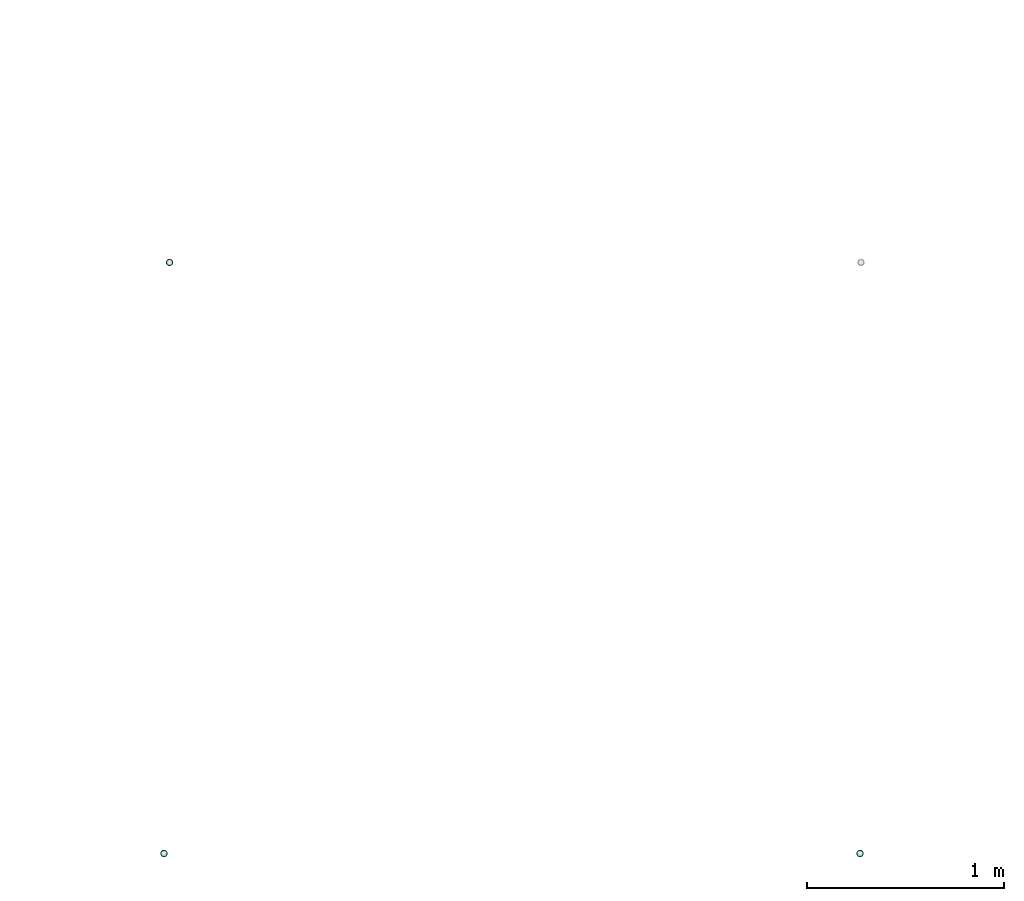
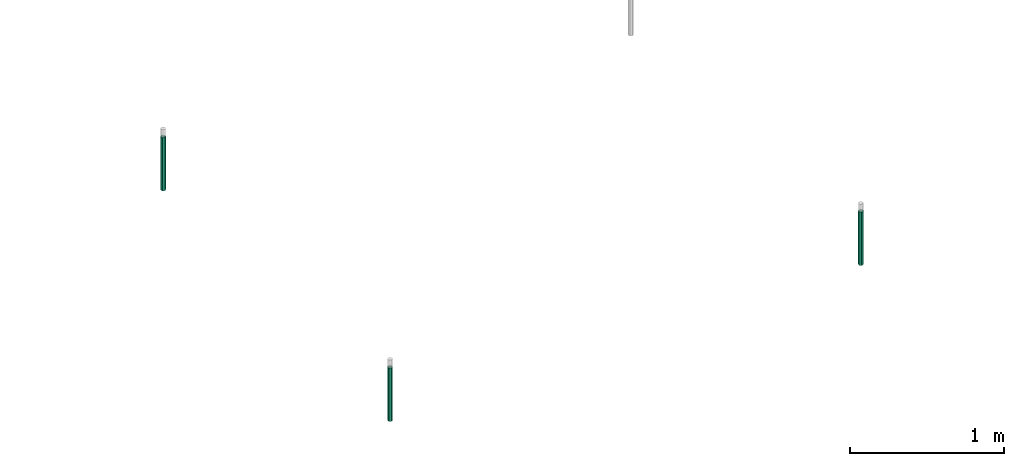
# One storey, part 9 of 14: 3 flow segments.
"""IFC2X3 building model written with IfcOpenShell, lengths in millimetres."""

from ifc_helpers import new_model, entity, si_unit, converted_unit, derived_unit, direction, frame, place, context, subcontext, project, spatial, faceted_brep, type_object, element, save


model = new_model("IFC2X3")

# Units and contexts
model_context = context("Model", 3, precision=0.01, world=frame((0.0, 4.29681676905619e-09, 0.0)), true_north=direction((4.01073788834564e-13, 1.0)))
plan_context = context("Plan", 3, precision=0.01, world=frame((0.0, 4.29681676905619e-09, 0.0)), true_north=direction((4.01073788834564e-13, 1.0)))
body_context = subcontext(model_context, "Body", "Model", "MODEL_VIEW")
ifc_project = project(units=[converted_unit("PLANEANGLEUNIT", "DEGREE", entity("IfcPositiveLengthMeasure", 0.0174532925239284), si_unit("PLANEANGLEUNIT", "RADIAN"), dimensions=[0, 0, 0, 0, 0, 0, 0]), si_unit("AREAUNIT", "SQUARE_METRE"), si_unit("LENGTHUNIT", "METRE", prefix="MILLI"), si_unit("MASSUNIT", "GRAM", prefix="KILO"), si_unit("POWERUNIT", "WATT"), si_unit("PRESSUREUNIT", "PASCAL", prefix="KILO"), si_unit("FORCEUNIT", "NEWTON", prefix="KILO"), si_unit("ELECTRICVOLTAGEUNIT", "VOLT"), si_unit("ELECTRICCURRENTUNIT", "AMPERE"), si_unit("THERMODYNAMICTEMPERATUREUNIT", "DEGREE_CELSIUS"), si_unit("TIMEUNIT", "SECOND"), si_unit("VOLUMEUNIT", "CUBIC_METRE"), derived_unit("LINEARVELOCITYUNIT", [(si_unit("LENGTHUNIT", "METRE"), 1), (si_unit("TIMEUNIT", "SECOND"), -1)]), derived_unit("VOLUMETRICFLOWRATEUNIT", [(si_unit("VOLUMEUNIT", "CUBIC_METRE"), 1), (si_unit("TIMEUNIT", "SECOND"), -1)]), derived_unit("THERMALTRANSMITTANCEUNIT", [(si_unit("POWERUNIT", "WATT"), 1), (si_unit("THERMODYNAMICTEMPERATUREUNIT", "KELVIN"), -1), (si_unit("AREAUNIT", "SQUARE_METRE"), -1)]), derived_unit("SOUNDPRESSUREUNIT", [(si_unit("PRESSUREUNIT", "PASCAL"), 1)])], contexts=[model_context, plan_context])

# Site, building, storey
site_placement = place(None, frame((0.0, -4.29681676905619e-09, 0.0), z_axis=(0.0, 0.0, 1.0), x_axis=(1.0, 0.0, 0.0)))
site = spatial("IfcSite", under=ifc_project, at=site_placement, CompositionType="ELEMENT")
building_placement = place(site_placement, frame((0.0, 4.29681676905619e-09, 0.0), z_axis=(0.0, 0.0, 1.0), x_axis=(1.0, 0.0, 0.0)))
building = spatial("IfcBuilding", under=site, at=building_placement, Name="mc-building", CompositionType="ELEMENT")
storey_placement = place(building_placement, frame((0.0, 0.0, 204000.0), z_axis=(0.0, 0.0, 1.0), x_axis=(1.0, 0.0, 0.0)))
storey = spatial("IfcBuildingStorey", under=building, at=storey_placement, Name="Nivå D", CompositionType="ELEMENT", Elevation=204000.0)

# Flow segments
pipe_segment_type = type_object("IfcPipeSegmentType", Name="Stålrør normaltykke", PredefinedType="RIGIDSEGMENT")
flow_segment_1_placement = place(storey_placement, frame((585184.33619, 573505.33925, 5536.29999999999), z_axis=(0.0, 1.0, 0.0), x_axis=(0.0, 0.0, 1.0)))
element("IfcFlowSegment", 1, at=flow_segment_1_placement, inside=storey, type_object=pipe_segment_type, Name="Stålrør normaltykke", context=body_context, shape_type="Brep", body=[
    faceted_brep([(363.700000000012, 14.6736355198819, -2.58735784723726), (363.700000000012, 14.9, 0.0), (787.3, 14.9, 0.0), (787.3, 14.6736355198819, -2.58735784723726), (363.700000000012, 14.00142004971, -5.09610013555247), (787.3, 14.00142004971, -5.09610013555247), (363.700000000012, 12.9037785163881, -7.45), (787.3, 12.9037785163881, -7.45000000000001), (363.700000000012, 11.4140622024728, -9.57753538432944), (787.3, 11.4140622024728, -9.57753538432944), (363.700000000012, 9.57753538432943, -11.4140622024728), (787.3, 9.57753538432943, -11.4140622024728), (363.700000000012, 7.45, -12.9037785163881), (787.3, 7.45, -12.9037785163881), (363.700000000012, 5.09610013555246, -14.00142004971), (787.3, 5.09610013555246, -14.00142004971), (363.700000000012, 2.58735784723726, -14.6736355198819), (787.3, 2.58735784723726, -14.6736355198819), (363.700000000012, -2.73708559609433e-15, -14.9), (787.3, -2.73708559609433e-15, -14.9), (363.700000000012, -2.58735784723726, -14.6736355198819), (787.3, -2.58735784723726, -14.6736355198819), (363.700000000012, -5.09610013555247, -14.00142004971), (787.3, -5.09610013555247, -14.00142004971), (363.700000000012, -7.45, -12.9037785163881), (787.3, -7.45000000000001, -12.9037785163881), (363.700000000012, -9.57753538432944, -11.4140622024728), (787.3, -9.57753538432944, -11.4140622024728), (363.700000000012, -11.4140622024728, -9.57753538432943), (787.3, -11.4140622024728, -9.57753538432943), (363.700000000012, -12.9037785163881, -7.44999999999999), (787.3, -12.9037785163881, -7.44999999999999), (363.700000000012, -14.00142004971, -5.09610013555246), (787.3, -14.00142004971, -5.09610013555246), (363.700000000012, -14.6736355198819, -2.58735784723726), (787.3, -14.6736355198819, -2.58735784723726), (363.700000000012, -14.9, 1.82472373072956e-15), (787.3, -14.9, 1.82472373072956e-15), (363.700000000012, -14.6736355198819, 2.58735784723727), (787.3, -14.6736355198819, 2.58735784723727), (363.700000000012, -14.00142004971, 5.09610013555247), (787.3, -14.00142004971, 5.09610013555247), (363.700000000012, -12.9037785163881, 7.45), (787.3, -12.9037785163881, 7.45), (363.700000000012, -11.4140622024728, 9.57753538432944), (787.3, -11.4140622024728, 9.57753538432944), (363.700000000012, -9.57753538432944, 11.4140622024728), (787.3, -9.57753538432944, 11.4140622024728), (363.700000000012, -7.45, 12.9037785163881), (787.3, -7.45, 12.9037785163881), (363.700000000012, -5.09610013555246, 14.00142004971), (787.3, -5.09610013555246, 14.00142004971), (363.700000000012, -2.58735784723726, 14.6736355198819), (787.3, -2.58735784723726, 14.6736355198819), (363.700000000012, 9.12361865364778e-16, 14.9), (787.3, 9.12361865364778e-16, 14.9), (363.700000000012, 2.58735784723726, 14.6736355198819), (787.3, 2.58735784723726, 14.6736355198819), (363.700000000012, 5.09610013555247, 14.00142004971), (787.3, 5.09610013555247, 14.00142004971), (363.700000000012, 7.45, 12.9037785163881), (787.3, 7.45, 12.9037785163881), (363.700000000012, 9.57753538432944, 11.4140622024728), (787.3, 9.57753538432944, 11.4140622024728), (363.700000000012, 11.4140622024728, 9.57753538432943), (787.3, 11.4140622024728, 9.57753538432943), (363.700000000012, 12.9037785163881, 7.45), (787.3, 12.9037785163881, 7.45), (363.700000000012, 14.00142004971, 5.09610013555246), (787.3, 14.00142004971, 5.09610013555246), (363.700000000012, 14.6736355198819, 2.58735784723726), (787.3, 14.6736355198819, 2.58735784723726), (363.700000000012, 16.9, 0.0), (363.700000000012, 16.6432510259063, -2.93465420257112), (787.3, 16.6432510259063, -2.93465420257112), (787.3, 16.9, 0.0), (363.700000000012, 16.6432510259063, 2.93465420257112), (787.3, 16.6432510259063, 2.93465420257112), (363.700000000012, 15.8808052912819, 5.7801404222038), (787.3, 15.8808052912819, 5.7801404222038), (363.700000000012, 14.635829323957, 8.45), (787.3, 14.635829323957, 8.45), (363.700000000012, 12.9461510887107, 10.8631106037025), (787.3, 12.9461510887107, 10.8631106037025), (363.700000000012, 10.8631106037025, 12.9461510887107), (787.3, 10.8631106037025, 12.9461510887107), (363.700000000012, 8.45, 14.635829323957), (787.3, 8.45, 14.635829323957), (363.700000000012, 5.7801404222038, 15.8808052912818), (787.3, 5.7801404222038, 15.8808052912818), (363.700000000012, 2.93465420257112, 16.6432510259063), (787.3, 2.93465420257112, 16.6432510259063), (363.700000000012, 1.03482654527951e-15, 16.9), (787.3, 1.03482654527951e-15, 16.9), (363.700000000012, -2.93465420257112, 16.6432510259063), (787.3, -2.93465420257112, 16.6432510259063), (363.700000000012, -5.7801404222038, 15.8808052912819), (787.3, -5.7801404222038, 15.8808052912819), (363.700000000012, -8.45, 14.635829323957), (787.3, -8.45, 14.635829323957), (363.700000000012, -10.8631106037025, 12.9461510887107), (787.3, -10.8631106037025, 12.9461510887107), (363.700000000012, -12.9461510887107, 10.8631106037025), (787.3, -12.9461510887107, 10.8631106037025), (363.700000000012, -14.635829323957, 8.45), (787.3, -14.635829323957, 8.45), (363.700000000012, -15.8808052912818, 5.7801404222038), (787.3, -15.8808052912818, 5.7801404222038), (363.700000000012, -16.6432510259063, 2.93465420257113), (787.3, -16.6432510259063, 2.93465420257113), (363.700000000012, -16.9, 2.06965309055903e-15), (787.3, -16.9, 2.06965309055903e-15), (363.700000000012, -16.6432510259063, -2.93465420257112), (787.3, -16.6432510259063, -2.93465420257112), (363.700000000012, -15.8808052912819, -5.7801404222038), (787.3, -15.8808052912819, -5.7801404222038), (363.700000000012, -14.635829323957, -8.44999999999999), (787.3, -14.635829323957, -8.44999999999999), (363.700000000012, -12.9461510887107, -10.8631106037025), (787.3, -12.9461510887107, -10.8631106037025), (363.700000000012, -10.8631106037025, -12.9461510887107), (787.3, -10.8631106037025, -12.9461510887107), (363.700000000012, -8.45000000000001, -14.635829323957), (787.3, -8.45000000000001, -14.635829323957), (363.700000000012, -5.78014042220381, -15.8808052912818), (787.3, -5.78014042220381, -15.8808052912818), (363.700000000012, -2.93465420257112, -16.6432510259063), (787.3, -2.93465420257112, -16.6432510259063), (363.700000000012, -3.10447963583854e-15, -16.9), (787.3, -3.10447963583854e-15, -16.9), (363.700000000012, 2.93465420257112, -16.6432510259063), (787.3, 2.93465420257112, -16.6432510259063), (363.700000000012, 5.78014042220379, -15.8808052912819), (787.3, 5.78014042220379, -15.8808052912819), (363.700000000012, 8.45, -14.635829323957), (787.3, 8.45, -14.635829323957), (363.700000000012, 10.8631106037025, -12.9461510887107), (787.3, 10.8631106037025, -12.9461510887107), (363.700000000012, 12.9461510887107, -10.8631106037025), (787.3, 12.9461510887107, -10.8631106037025), (363.700000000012, 14.635829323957, -8.45000000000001), (787.3, 14.635829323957, -8.45000000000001), (363.700000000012, 15.8808052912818, -5.78014042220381), (787.3, 15.8808052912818, -5.78014042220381)], [[[0, 1, 2, 3]], [[4, 0, 3, 5]], [[6, 4, 5, 7]], [[8, 6, 7, 9]], [[10, 8, 9, 11]], [[12, 10, 11, 13]], [[14, 12, 13, 15]], [[16, 14, 15, 17]], [[18, 16, 17, 19]], [[20, 18, 19, 21]], [[22, 20, 21, 23]], [[24, 22, 23, 25]], [[26, 24, 25, 27]], [[28, 26, 27, 29]], [[30, 28, 29, 31]], [[32, 30, 31, 33]], [[34, 32, 33, 35]], [[36, 34, 35, 37]], [[38, 36, 37, 39]], [[40, 38, 39, 41]], [[42, 40, 41, 43]], [[44, 42, 43, 45]], [[46, 44, 45, 47]], [[48, 46, 47, 49]], [[50, 48, 49, 51]], [[52, 50, 51, 53]], [[54, 52, 53, 55]], [[56, 54, 55, 57]], [[58, 56, 57, 59]], [[60, 58, 59, 61]], [[62, 60, 61, 63]], [[64, 62, 63, 65]], [[66, 64, 65, 67]], [[68, 66, 67, 69]], [[70, 68, 69, 71]], [[1, 70, 71, 2]], [[72, 73, 74, 75]], [[76, 72, 75, 77]], [[78, 76, 77, 79]], [[80, 78, 79, 81]], [[82, 80, 81, 83]], [[84, 82, 83, 85]], [[86, 84, 85, 87]], [[88, 86, 87, 89]], [[90, 88, 89, 91]], [[92, 90, 91, 93]], [[94, 92, 93, 95]], [[96, 94, 95, 97]], [[98, 96, 97, 99]], [[100, 98, 99, 101]], [[102, 100, 101, 103]], [[104, 102, 103, 105]], [[106, 104, 105, 107]], [[108, 106, 107, 109]], [[110, 108, 109, 111]], [[112, 110, 111, 113]], [[114, 112, 113, 115]], [[116, 114, 115, 117]], [[118, 116, 117, 119]], [[120, 118, 119, 121]], [[122, 120, 121, 123]], [[124, 122, 123, 125]], [[126, 124, 125, 127]], [[128, 126, 127, 129]], [[130, 128, 129, 131]], [[132, 130, 131, 133]], [[134, 132, 133, 135]], [[136, 134, 135, 137]], [[138, 136, 137, 139]], [[140, 138, 139, 141]], [[142, 140, 141, 143]], [[73, 142, 143, 74]], [[75, 74, 143, 141, 139, 137, 135, 133, 131, 129, 127, 125, 123, 121, 119, 117, 115, 113, 111, 109, 107, 105, 103, 101, 99, 97, 95, 93, 91, 89, 87, 85, 83, 81, 79, 77], [2, 71, 69, 67, 65, 63, 61, 59, 57, 55, 53, 51, 49, 47, 45, 43, 41, 39, 37, 35, 33, 31, 29, 27, 25, 23, 21, 19, 17, 15, 13, 11, 9, 7, 5, 3]], [[76, 78, 80, 82, 84, 86, 88, 90, 92, 94, 96, 98, 100, 102, 104, 106, 108, 110, 112, 114, 116, 118, 120, 122, 124, 126, 128, 130, 132, 134, 136, 138, 140, 142, 73, 72], [4, 6, 8, 10, 12, 14, 16, 18, 20, 22, 24, 26, 28, 30, 32, 34, 36, 38, 40, 42, 44, 46, 48, 50, 52, 54, 56, 58, 60, 62, 64, 66, 68, 70, 1, 0]]], orient=[[False], [False], [False], [False], [False], [False], [False], [False], [False], [False], [False], [False], [False], [False], [False], [False], [False], [False], [False], [False], [False], [False], [False], [False], [False], [False], [False], [False], [False], [False], [False], [False], [False], [False], [False], [False], [False], [False], [False], [False], [False], [False], [False], [False], [False], [False], [False], [False], [False], [False], [False], [False], [False], [False], [False], [False], [False], [False], [False], [False], [False], [False], [False], [False], [False], [False], [False], [False], [False], [False], [False], [False], [False, False], [False, False]]),
])
flow_segment_2_placement = place(storey_placement, frame((585155.46277, 570500.0, 6323.848), z_axis=(0.0, 1.0, 0.0), x_axis=(0.0, 0.0, -1.0)))
element("IfcFlowSegment", 2, at=flow_segment_2_placement, inside=storey, type_object=pipe_segment_type, Name="Stålrør normaltykke", context=body_context, shape_type="Brep", body=[
    faceted_brep([(423.847999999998, 14.9, 0.0), (423.847999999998, 14.6736355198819, -2.58735784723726), (0.0, 14.6736355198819, -2.58735784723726), (0.0, 14.9, 0.0), (423.847999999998, 14.00142004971, -5.09610013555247), (0.0, 14.00142004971, -5.09610013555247), (423.847999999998, 12.9037785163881, -7.45), (0.0, 12.9037785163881, -7.45000000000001), (423.847999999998, 11.4140622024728, -9.57753538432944), (0.0, 11.4140622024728, -9.57753538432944), (423.847999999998, 9.57753538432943, -11.4140622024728), (0.0, 9.57753538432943, -11.4140622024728), (423.847999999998, 7.45, -12.9037785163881), (0.0, 7.45, -12.9037785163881), (423.847999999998, 5.09610013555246, -14.00142004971), (0.0, 5.09610013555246, -14.00142004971), (423.847999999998, 2.58735784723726, -14.6736355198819), (0.0, 2.58735784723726, -14.6736355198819), (423.847999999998, -2.73708559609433e-15, -14.9), (0.0, -2.73708559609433e-15, -14.9), (423.847999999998, -2.58735784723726, -14.6736355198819), (0.0, -2.58735784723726, -14.6736355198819), (423.847999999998, -5.09610013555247, -14.00142004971), (0.0, -5.09610013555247, -14.00142004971), (423.847999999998, -7.45, -12.9037785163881), (0.0, -7.45000000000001, -12.9037785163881), (423.847999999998, -9.57753538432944, -11.4140622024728), (0.0, -9.57753538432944, -11.4140622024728), (423.847999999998, -11.4140622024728, -9.57753538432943), (0.0, -11.4140622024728, -9.57753538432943), (423.847999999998, -12.9037785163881, -7.44999999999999), (0.0, -12.9037785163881, -7.44999999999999), (423.847999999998, -14.00142004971, -5.09610013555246), (0.0, -14.00142004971, -5.09610013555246), (423.847999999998, -14.6736355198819, -2.58735784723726), (0.0, -14.6736355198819, -2.58735784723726), (423.847999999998, -14.9, 1.82472373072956e-15), (0.0, -14.9, 1.82472373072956e-15), (423.847999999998, -14.6736355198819, 2.58735784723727), (0.0, -14.6736355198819, 2.58735784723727), (423.847999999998, -14.00142004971, 5.09610013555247), (0.0, -14.00142004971, 5.09610013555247), (423.847999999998, -12.9037785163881, 7.45), (0.0, -12.9037785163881, 7.45), (423.847999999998, -11.4140622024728, 9.57753538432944), (0.0, -11.4140622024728, 9.57753538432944), (423.847999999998, -9.57753538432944, 11.4140622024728), (0.0, -9.57753538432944, 11.4140622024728), (423.847999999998, -7.45, 12.9037785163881), (0.0, -7.45, 12.9037785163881), (423.847999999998, -5.09610013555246, 14.00142004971), (0.0, -5.09610013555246, 14.00142004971), (423.847999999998, -2.58735784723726, 14.6736355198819), (0.0, -2.58735784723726, 14.6736355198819), (423.847999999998, 9.12361865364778e-16, 14.9), (0.0, 9.12361865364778e-16, 14.9), (423.847999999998, 2.58735784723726, 14.6736355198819), (0.0, 2.58735784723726, 14.6736355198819), (423.847999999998, 5.09610013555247, 14.00142004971), (0.0, 5.09610013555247, 14.00142004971), (423.847999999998, 7.45, 12.9037785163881), (0.0, 7.45, 12.9037785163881), (423.847999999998, 9.57753538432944, 11.4140622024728), (0.0, 9.57753538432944, 11.4140622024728), (423.847999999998, 11.4140622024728, 9.57753538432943), (0.0, 11.4140622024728, 9.57753538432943), (423.847999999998, 12.9037785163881, 7.45), (0.0, 12.9037785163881, 7.45), (423.847999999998, 14.00142004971, 5.09610013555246), (0.0, 14.00142004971, 5.09610013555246), (423.847999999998, 14.6736355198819, 2.58735784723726), (0.0, 14.6736355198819, 2.58735784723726), (423.847999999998, 16.6432510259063, -2.93465420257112), (423.847999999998, 16.9, 0.0), (0.0, 16.9, 0.0), (0.0, 16.6432510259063, -2.93465420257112), (423.847999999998, 16.6432510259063, 2.93465420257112), (0.0, 16.6432510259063, 2.93465420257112), (423.847999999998, 15.8808052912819, 5.7801404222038), (0.0, 15.8808052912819, 5.7801404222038), (423.847999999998, 14.635829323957, 8.45), (0.0, 14.635829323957, 8.45), (423.847999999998, 12.9461510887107, 10.8631106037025), (0.0, 12.9461510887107, 10.8631106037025), (423.847999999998, 10.8631106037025, 12.9461510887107), (0.0, 10.8631106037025, 12.9461510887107), (423.847999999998, 8.45, 14.635829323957), (0.0, 8.45, 14.635829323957), (423.847999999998, 5.7801404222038, 15.8808052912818), (0.0, 5.7801404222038, 15.8808052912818), (423.847999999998, 2.93465420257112, 16.6432510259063), (0.0, 2.93465420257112, 16.6432510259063), (423.847999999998, 1.03482654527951e-15, 16.9), (0.0, 1.03482654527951e-15, 16.9), (423.847999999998, -2.93465420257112, 16.6432510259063), (0.0, -2.93465420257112, 16.6432510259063), (423.847999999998, -5.7801404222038, 15.8808052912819), (0.0, -5.7801404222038, 15.8808052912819), (423.847999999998, -8.45, 14.635829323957), (0.0, -8.45, 14.635829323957), (423.847999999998, -10.8631106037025, 12.9461510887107), (0.0, -10.8631106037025, 12.9461510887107), (423.847999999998, -12.9461510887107, 10.8631106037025), (0.0, -12.9461510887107, 10.8631106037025), (423.847999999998, -14.635829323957, 8.45), (0.0, -14.635829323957, 8.45), (423.847999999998, -15.8808052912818, 5.7801404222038), (0.0, -15.8808052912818, 5.7801404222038), (423.847999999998, -16.6432510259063, 2.93465420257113), (0.0, -16.6432510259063, 2.93465420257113), (423.847999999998, -16.9, 2.06965309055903e-15), (0.0, -16.9, 2.06965309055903e-15), (423.847999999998, -16.6432510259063, -2.93465420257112), (0.0, -16.6432510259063, -2.93465420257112), (423.847999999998, -15.8808052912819, -5.7801404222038), (0.0, -15.8808052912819, -5.7801404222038), (423.847999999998, -14.635829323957, -8.44999999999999), (0.0, -14.635829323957, -8.44999999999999), (423.847999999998, -12.9461510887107, -10.8631106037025), (0.0, -12.9461510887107, -10.8631106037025), (423.847999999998, -10.8631106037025, -12.9461510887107), (0.0, -10.8631106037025, -12.9461510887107), (423.847999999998, -8.45000000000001, -14.635829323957), (0.0, -8.45000000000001, -14.635829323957), (423.847999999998, -5.78014042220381, -15.8808052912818), (0.0, -5.78014042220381, -15.8808052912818), (423.847999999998, -2.93465420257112, -16.6432510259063), (0.0, -2.93465420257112, -16.6432510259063), (423.847999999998, -3.10447963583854e-15, -16.9), (0.0, -3.10447963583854e-15, -16.9), (423.847999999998, 2.93465420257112, -16.6432510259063), (0.0, 2.93465420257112, -16.6432510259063), (423.847999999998, 5.78014042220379, -15.8808052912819), (0.0, 5.78014042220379, -15.8808052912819), (423.847999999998, 8.45, -14.635829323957), (0.0, 8.45, -14.635829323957), (423.847999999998, 10.8631106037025, -12.9461510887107), (0.0, 10.8631106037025, -12.9461510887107), (423.847999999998, 12.9461510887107, -10.8631106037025), (0.0, 12.9461510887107, -10.8631106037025), (423.847999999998, 14.635829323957, -8.45000000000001), (0.0, 14.635829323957, -8.45000000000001), (423.847999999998, 15.8808052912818, -5.78014042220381), (0.0, 15.8808052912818, -5.78014042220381)], [[[0, 1, 2, 3]], [[1, 4, 5, 2]], [[4, 6, 7, 5]], [[6, 8, 9, 7]], [[8, 10, 11, 9]], [[10, 12, 13, 11]], [[12, 14, 15, 13]], [[14, 16, 17, 15]], [[16, 18, 19, 17]], [[18, 20, 21, 19]], [[20, 22, 23, 21]], [[22, 24, 25, 23]], [[24, 26, 27, 25]], [[26, 28, 29, 27]], [[28, 30, 31, 29]], [[30, 32, 33, 31]], [[32, 34, 35, 33]], [[34, 36, 37, 35]], [[36, 38, 39, 37]], [[38, 40, 41, 39]], [[40, 42, 43, 41]], [[42, 44, 45, 43]], [[44, 46, 47, 45]], [[46, 48, 49, 47]], [[48, 50, 51, 49]], [[50, 52, 53, 51]], [[52, 54, 55, 53]], [[54, 56, 57, 55]], [[56, 58, 59, 57]], [[58, 60, 61, 59]], [[60, 62, 63, 61]], [[62, 64, 65, 63]], [[64, 66, 67, 65]], [[66, 68, 69, 67]], [[68, 70, 71, 69]], [[70, 0, 3, 71]], [[72, 73, 74, 75]], [[73, 76, 77, 74]], [[76, 78, 79, 77]], [[78, 80, 81, 79]], [[80, 82, 83, 81]], [[82, 84, 85, 83]], [[84, 86, 87, 85]], [[86, 88, 89, 87]], [[88, 90, 91, 89]], [[90, 92, 93, 91]], [[92, 94, 95, 93]], [[94, 96, 97, 95]], [[96, 98, 99, 97]], [[98, 100, 101, 99]], [[100, 102, 103, 101]], [[102, 104, 105, 103]], [[104, 106, 107, 105]], [[106, 108, 109, 107]], [[108, 110, 111, 109]], [[110, 112, 113, 111]], [[112, 114, 115, 113]], [[114, 116, 117, 115]], [[116, 118, 119, 117]], [[118, 120, 121, 119]], [[120, 122, 123, 121]], [[122, 124, 125, 123]], [[124, 126, 127, 125]], [[126, 128, 129, 127]], [[128, 130, 131, 129]], [[130, 132, 133, 131]], [[132, 134, 135, 133]], [[134, 136, 137, 135]], [[136, 138, 139, 137]], [[138, 140, 141, 139]], [[140, 142, 143, 141]], [[142, 72, 75, 143]], [[75, 74, 77, 79, 81, 83, 85, 87, 89, 91, 93, 95, 97, 99, 101, 103, 105, 107, 109, 111, 113, 115, 117, 119, 121, 123, 125, 127, 129, 131, 133, 135, 137, 139, 141, 143], [3, 2, 5, 7, 9, 11, 13, 15, 17, 19, 21, 23, 25, 27, 29, 31, 33, 35, 37, 39, 41, 43, 45, 47, 49, 51, 53, 55, 57, 59, 61, 63, 65, 67, 69, 71]], [[142, 140, 138, 136, 134, 132, 130, 128, 126, 124, 122, 120, 118, 116, 114, 112, 110, 108, 106, 104, 102, 100, 98, 96, 94, 92, 90, 88, 86, 84, 82, 80, 78, 76, 73, 72], [70, 68, 66, 64, 62, 60, 58, 56, 54, 52, 50, 48, 46, 44, 42, 40, 38, 36, 34, 32, 30, 28, 26, 24, 22, 20, 18, 16, 14, 12, 10, 8, 6, 4, 1, 0]]], orient=[[False], [False], [False], [False], [False], [False], [False], [False], [False], [False], [False], [False], [False], [False], [False], [False], [False], [False], [False], [False], [False], [False], [False], [False], [False], [False], [False], [False], [False], [False], [False], [False], [False], [False], [False], [False], [False], [False], [False], [False], [False], [False], [False], [False], [False], [False], [False], [False], [False], [False], [False], [False], [False], [False], [False], [False], [False], [False], [False], [False], [False], [False], [False], [False], [False], [False], [False], [False], [False], [False], [False], [False], [False, False], [False, False]]),
])
flow_segment_3_placement = place(storey_placement, frame((588695.46277, 570500.0, 5536.29999999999), z_axis=(0.0, 1.0, 0.0), x_axis=(0.0, 0.0, 1.0)))
element("IfcFlowSegment", 3, at=flow_segment_3_placement, inside=storey, type_object=pipe_segment_type, Name="Stålrør normaltykke", context=body_context, shape_type="Brep", body=[
    faceted_brep([(363.700000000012, 14.6736355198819, -2.58735784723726), (363.700000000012, 14.9, 0.0), (788.5, 14.9, 0.0), (788.5, 14.6736355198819, -2.58735784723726), (363.700000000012, 14.00142004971, -5.09610013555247), (788.5, 14.00142004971, -5.09610013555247), (363.700000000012, 12.9037785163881, -7.45000000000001), (788.5, 12.9037785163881, -7.45000000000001), (363.700000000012, 11.4140622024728, -9.57753538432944), (788.5, 11.4140622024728, -9.57753538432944), (363.700000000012, 9.57753538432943, -11.4140622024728), (788.5, 9.57753538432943, -11.4140622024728), (363.700000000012, 7.45, -12.9037785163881), (788.5, 7.45, -12.9037785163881), (363.700000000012, 5.09610013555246, -14.00142004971), (788.5, 5.09610013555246, -14.00142004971), (363.700000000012, 2.58735784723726, -14.6736355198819), (788.5, 2.58735784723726, -14.6736355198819), (363.700000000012, -2.73708559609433e-15, -14.9), (788.5, -2.73708559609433e-15, -14.9), (363.700000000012, -2.58735784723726, -14.6736355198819), (788.5, -2.58735784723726, -14.6736355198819), (363.700000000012, -5.09610013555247, -14.00142004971), (788.5, -5.09610013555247, -14.00142004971), (363.700000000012, -7.45000000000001, -12.9037785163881), (788.5, -7.45000000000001, -12.9037785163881), (363.700000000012, -9.57753538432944, -11.4140622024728), (788.5, -9.57753538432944, -11.4140622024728), (363.700000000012, -11.4140622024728, -9.57753538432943), (788.5, -11.4140622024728, -9.57753538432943), (363.700000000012, -12.9037785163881, -7.45), (788.5, -12.9037785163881, -7.44999999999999), (363.700000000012, -14.00142004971, -5.09610013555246), (788.5, -14.00142004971, -5.09610013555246), (363.700000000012, -14.6736355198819, -2.58735784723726), (788.5, -14.6736355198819, -2.58735784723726), (363.700000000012, -14.9, 1.82472373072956e-15), (788.5, -14.9, 1.82472373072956e-15), (363.700000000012, -14.6736355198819, 2.58735784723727), (788.5, -14.6736355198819, 2.58735784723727), (363.700000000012, -14.00142004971, 5.09610013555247), (788.5, -14.00142004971, 5.09610013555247), (363.700000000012, -12.9037785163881, 7.45), (788.5, -12.9037785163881, 7.45), (363.700000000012, -11.4140622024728, 9.57753538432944), (788.5, -11.4140622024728, 9.57753538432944), (363.700000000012, -9.57753538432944, 11.4140622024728), (788.5, -9.57753538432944, 11.4140622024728), (363.700000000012, -7.45, 12.9037785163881), (788.5, -7.45, 12.9037785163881), (363.700000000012, -5.09610013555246, 14.00142004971), (788.5, -5.09610013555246, 14.00142004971), (363.700000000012, -2.58735784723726, 14.6736355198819), (788.5, -2.58735784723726, 14.6736355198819), (363.700000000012, 9.12361865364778e-16, 14.9), (788.5, 9.12361865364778e-16, 14.9), (363.700000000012, 2.58735784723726, 14.6736355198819), (788.5, 2.58735784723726, 14.6736355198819), (363.700000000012, 5.09610013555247, 14.00142004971), (788.5, 5.09610013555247, 14.00142004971), (363.700000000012, 7.45, 12.9037785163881), (788.5, 7.45, 12.9037785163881), (363.700000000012, 9.57753538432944, 11.4140622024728), (788.5, 9.57753538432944, 11.4140622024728), (363.700000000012, 11.4140622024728, 9.57753538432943), (788.5, 11.4140622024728, 9.57753538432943), (363.700000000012, 12.9037785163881, 7.45), (788.5, 12.9037785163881, 7.45), (363.700000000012, 14.00142004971, 5.09610013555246), (788.5, 14.00142004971, 5.09610013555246), (363.700000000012, 14.6736355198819, 2.58735784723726), (788.5, 14.6736355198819, 2.58735784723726), (363.700000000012, 16.9, 0.0), (363.700000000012, 16.6432510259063, -2.93465420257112), (788.5, 16.6432510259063, -2.93465420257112), (788.5, 16.9, 0.0), (363.700000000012, 16.6432510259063, 2.93465420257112), (788.5, 16.6432510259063, 2.93465420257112), (363.700000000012, 15.8808052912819, 5.7801404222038), (788.5, 15.8808052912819, 5.7801404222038), (363.700000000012, 14.635829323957, 8.45), (788.5, 14.635829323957, 8.45), (363.700000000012, 12.9461510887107, 10.8631106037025), (788.5, 12.9461510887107, 10.8631106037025), (363.700000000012, 10.8631106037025, 12.9461510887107), (788.5, 10.8631106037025, 12.9461510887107), (363.700000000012, 8.45, 14.635829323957), (788.5, 8.45, 14.635829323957), (363.700000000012, 5.7801404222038, 15.8808052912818), (788.5, 5.7801404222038, 15.8808052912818), (363.700000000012, 2.93465420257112, 16.6432510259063), (788.5, 2.93465420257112, 16.6432510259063), (363.700000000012, 1.03482654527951e-15, 16.9), (788.5, 1.03482654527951e-15, 16.9), (363.700000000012, -2.93465420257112, 16.6432510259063), (788.5, -2.93465420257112, 16.6432510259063), (363.700000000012, -5.7801404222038, 15.8808052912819), (788.5, -5.7801404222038, 15.8808052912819), (363.700000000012, -8.45, 14.635829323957), (788.5, -8.45, 14.635829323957), (363.700000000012, -10.8631106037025, 12.9461510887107), (788.5, -10.8631106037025, 12.9461510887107), (363.700000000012, -12.9461510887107, 10.8631106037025), (788.5, -12.9461510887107, 10.8631106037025), (363.700000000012, -14.635829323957, 8.45), (788.5, -14.635829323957, 8.45), (363.700000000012, -15.8808052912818, 5.7801404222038), (788.5, -15.8808052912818, 5.7801404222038), (363.700000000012, -16.6432510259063, 2.93465420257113), (788.5, -16.6432510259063, 2.93465420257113), (363.700000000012, -16.9, 2.06965309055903e-15), (788.5, -16.9, 2.06965309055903e-15), (363.700000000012, -16.6432510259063, -2.93465420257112), (788.5, -16.6432510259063, -2.93465420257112), (363.700000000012, -15.8808052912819, -5.7801404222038), (788.5, -15.8808052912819, -5.7801404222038), (363.700000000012, -14.635829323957, -8.44999999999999), (788.5, -14.635829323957, -8.44999999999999), (363.700000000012, -12.9461510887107, -10.8631106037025), (788.5, -12.9461510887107, -10.8631106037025), (363.700000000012, -10.8631106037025, -12.9461510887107), (788.5, -10.8631106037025, -12.9461510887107), (363.700000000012, -8.45000000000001, -14.635829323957), (788.5, -8.45000000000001, -14.635829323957), (363.700000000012, -5.78014042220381, -15.8808052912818), (788.5, -5.78014042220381, -15.8808052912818), (363.700000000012, -2.93465420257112, -16.6432510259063), (788.5, -2.93465420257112, -16.6432510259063), (363.700000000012, -3.10447963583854e-15, -16.9), (788.5, -3.10447963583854e-15, -16.9), (363.700000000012, 2.93465420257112, -16.6432510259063), (788.5, 2.93465420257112, -16.6432510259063), (363.700000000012, 5.78014042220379, -15.8808052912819), (788.5, 5.78014042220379, -15.8808052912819), (363.700000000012, 8.45, -14.635829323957), (788.5, 8.45, -14.635829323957), (363.700000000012, 10.8631106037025, -12.9461510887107), (788.5, 10.8631106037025, -12.9461510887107), (363.700000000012, 12.9461510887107, -10.8631106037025), (788.5, 12.9461510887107, -10.8631106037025), (363.700000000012, 14.635829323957, -8.45000000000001), (788.5, 14.635829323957, -8.45000000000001), (363.700000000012, 15.8808052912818, -5.78014042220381), (788.5, 15.8808052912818, -5.78014042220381)], [[[0, 1, 2, 3]], [[4, 0, 3, 5]], [[6, 4, 5, 7]], [[8, 6, 7, 9]], [[10, 8, 9, 11]], [[12, 10, 11, 13]], [[14, 12, 13, 15]], [[16, 14, 15, 17]], [[18, 16, 17, 19]], [[20, 18, 19, 21]], [[22, 20, 21, 23]], [[24, 22, 23, 25]], [[26, 24, 25, 27]], [[28, 26, 27, 29]], [[30, 28, 29, 31]], [[32, 30, 31, 33]], [[34, 32, 33, 35]], [[36, 34, 35, 37]], [[38, 36, 37, 39]], [[40, 38, 39, 41]], [[42, 40, 41, 43]], [[44, 42, 43, 45]], [[46, 44, 45, 47]], [[48, 46, 47, 49]], [[50, 48, 49, 51]], [[52, 50, 51, 53]], [[54, 52, 53, 55]], [[56, 54, 55, 57]], [[58, 56, 57, 59]], [[60, 58, 59, 61]], [[62, 60, 61, 63]], [[64, 62, 63, 65]], [[66, 64, 65, 67]], [[68, 66, 67, 69]], [[70, 68, 69, 71]], [[1, 70, 71, 2]], [[72, 73, 74, 75]], [[76, 72, 75, 77]], [[78, 76, 77, 79]], [[80, 78, 79, 81]], [[82, 80, 81, 83]], [[84, 82, 83, 85]], [[86, 84, 85, 87]], [[88, 86, 87, 89]], [[90, 88, 89, 91]], [[92, 90, 91, 93]], [[94, 92, 93, 95]], [[96, 94, 95, 97]], [[98, 96, 97, 99]], [[100, 98, 99, 101]], [[102, 100, 101, 103]], [[104, 102, 103, 105]], [[106, 104, 105, 107]], [[108, 106, 107, 109]], [[110, 108, 109, 111]], [[112, 110, 111, 113]], [[114, 112, 113, 115]], [[116, 114, 115, 117]], [[118, 116, 117, 119]], [[120, 118, 119, 121]], [[122, 120, 121, 123]], [[124, 122, 123, 125]], [[126, 124, 125, 127]], [[128, 126, 127, 129]], [[130, 128, 129, 131]], [[132, 130, 131, 133]], [[134, 132, 133, 135]], [[136, 134, 135, 137]], [[138, 136, 137, 139]], [[140, 138, 139, 141]], [[142, 140, 141, 143]], [[73, 142, 143, 74]], [[75, 74, 143, 141, 139, 137, 135, 133, 131, 129, 127, 125, 123, 121, 119, 117, 115, 113, 111, 109, 107, 105, 103, 101, 99, 97, 95, 93, 91, 89, 87, 85, 83, 81, 79, 77], [2, 71, 69, 67, 65, 63, 61, 59, 57, 55, 53, 51, 49, 47, 45, 43, 41, 39, 37, 35, 33, 31, 29, 27, 25, 23, 21, 19, 17, 15, 13, 11, 9, 7, 5, 3]], [[76, 78, 80, 82, 84, 86, 88, 90, 92, 94, 96, 98, 100, 102, 104, 106, 108, 110, 112, 114, 116, 118, 120, 122, 124, 126, 128, 130, 132, 134, 136, 138, 140, 142, 73, 72], [4, 6, 8, 10, 12, 14, 16, 18, 20, 22, 24, 26, 28, 30, 32, 34, 36, 38, 40, 42, 44, 46, 48, 50, 52, 54, 56, 58, 60, 62, 64, 66, 68, 70, 1, 0]]], orient=[[False], [False], [False], [False], [False], [False], [False], [False], [False], [False], [False], [False], [False], [False], [False], [False], [False], [False], [False], [False], [False], [False], [False], [False], [False], [False], [False], [False], [False], [False], [False], [False], [False], [False], [False], [False], [False], [False], [False], [False], [False], [False], [False], [False], [False], [False], [False], [False], [False], [False], [False], [False], [False], [False], [False], [False], [False], [False], [False], [False], [False], [False], [False], [False], [False], [False], [False], [False], [False], [False], [False], [False], [False, False], [False, False]]),
])

save(model, "model.ifc")
